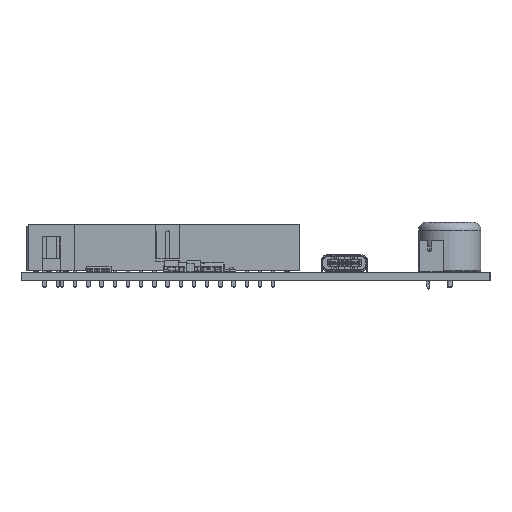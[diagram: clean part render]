
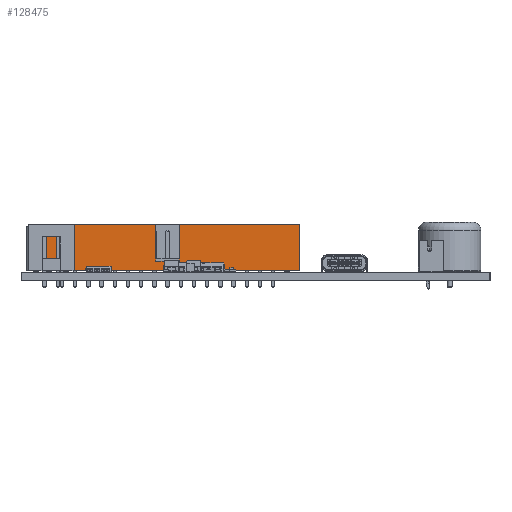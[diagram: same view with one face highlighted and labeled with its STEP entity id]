
A CAD part, left-side view. The second image highlights one B-rep face of the part: STEP entity #128475.
In plain terms, the highlighted planar face has unit normal (-1, 0, 0).
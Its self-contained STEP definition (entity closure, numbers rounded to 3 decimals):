
#128475 = ADVANCED_FACE('',(#128476),#128490,.T.);
#128476 = FACE_BOUND('',#128477,.T.);
#128477 = EDGE_LOOP('',(#128478,#128513,#128541,#128569,#128597,#128625,
    #128653,#128681));
#128478 = ORIENTED_EDGE('',*,*,#128479,.F.);
#128479 = EDGE_CURVE('',#128480,#128482,#128484,.T.);
#128480 = VERTEX_POINT('',#128481);
#128481 = CARTESIAN_POINT('',(-3.155,5.1,0.25));
#128482 = VERTEX_POINT('',#128483);
#128483 = CARTESIAN_POINT('',(-3.155,5.1,9.1));
#128484 = SURFACE_CURVE('',#128485,(#128489,#128501),.PCURVE_S1.);
#128485 = LINE('',#128486,#128487);
#128486 = CARTESIAN_POINT('',(-3.155,5.1,0.25));
#128487 = VECTOR('',#128488,1.);
#128488 = DIRECTION('',(0.,0.,1.));
#128489 = PCURVE('',#128490,#128495);
#128490 = PLANE('',#128491);
#128491 = AXIS2_PLACEMENT_3D('',#128492,#128493,#128494);
#128492 = CARTESIAN_POINT('',(-3.155,-20.32,4.675));
#128493 = DIRECTION('',(-1.,-0.,-0.));
#128494 = DIRECTION('',(0.,0.,-1.));
#128495 = DEFINITIONAL_REPRESENTATION('',(#128496),#128500);
#128496 = LINE('',#128497,#128498);
#128497 = CARTESIAN_POINT('',(4.425,-25.42));
#128498 = VECTOR('',#128499,1.);
#128499 = DIRECTION('',(-1.,0.));
#128500 = ( GEOMETRIC_REPRESENTATION_CONTEXT(2) 
PARAMETRIC_REPRESENTATION_CONTEXT() REPRESENTATION_CONTEXT('2D SPACE',''
  ) );
#128501 = PCURVE('',#128502,#128507);
#128502 = PLANE('',#128503);
#128503 = AXIS2_PLACEMENT_3D('',#128504,#128505,#128506);
#128504 = CARTESIAN_POINT('',(1.27,5.1,4.675));
#128505 = DIRECTION('',(0.,1.,0.));
#128506 = DIRECTION('',(0.,0.,1.));
#128507 = DEFINITIONAL_REPRESENTATION('',(#128508),#128512);
#128508 = LINE('',#128509,#128510);
#128509 = CARTESIAN_POINT('',(-4.425,-4.425));
#128510 = VECTOR('',#128511,1.);
#128511 = DIRECTION('',(1.,0.));
#128512 = ( GEOMETRIC_REPRESENTATION_CONTEXT(2) 
PARAMETRIC_REPRESENTATION_CONTEXT() REPRESENTATION_CONTEXT('2D SPACE',''
  ) );
#128513 = ORIENTED_EDGE('',*,*,#128514,.T.);
#128514 = EDGE_CURVE('',#128480,#128515,#128517,.T.);
#128515 = VERTEX_POINT('',#128516);
#128516 = CARTESIAN_POINT('',(-3.155,-45.74,0.25));
#128517 = SURFACE_CURVE('',#128518,(#128522,#128529),.PCURVE_S1.);
#128518 = LINE('',#128519,#128520);
#128519 = CARTESIAN_POINT('',(-3.155,5.1,0.25));
#128520 = VECTOR('',#128521,1.);
#128521 = DIRECTION('',(0.,-1.,0.));
#128522 = PCURVE('',#128490,#128523);
#128523 = DEFINITIONAL_REPRESENTATION('',(#128524),#128528);
#128524 = LINE('',#128525,#128526);
#128525 = CARTESIAN_POINT('',(4.425,-25.42));
#128526 = VECTOR('',#128527,1.);
#128527 = DIRECTION('',(0.,1.));
#128528 = ( GEOMETRIC_REPRESENTATION_CONTEXT(2) 
PARAMETRIC_REPRESENTATION_CONTEXT() REPRESENTATION_CONTEXT('2D SPACE',''
  ) );
#128529 = PCURVE('',#128530,#128535);
#128530 = PLANE('',#128531);
#128531 = AXIS2_PLACEMENT_3D('',#128532,#128533,#128534);
#128532 = CARTESIAN_POINT('',(1.294,-20.32,0.25));
#128533 = DIRECTION('',(-0.,-0.,-1.));
#128534 = DIRECTION('',(-1.,0.,0.));
#128535 = DEFINITIONAL_REPRESENTATION('',(#128536),#128540);
#128536 = LINE('',#128537,#128538);
#128537 = CARTESIAN_POINT('',(4.449,25.42));
#128538 = VECTOR('',#128539,1.);
#128539 = DIRECTION('',(0.,-1.));
#128540 = ( GEOMETRIC_REPRESENTATION_CONTEXT(2) 
PARAMETRIC_REPRESENTATION_CONTEXT() REPRESENTATION_CONTEXT('2D SPACE',''
  ) );
#128541 = ORIENTED_EDGE('',*,*,#128542,.T.);
#128542 = EDGE_CURVE('',#128515,#128543,#128545,.T.);
#128543 = VERTEX_POINT('',#128544);
#128544 = CARTESIAN_POINT('',(-3.155,-45.74,9.1));
#128545 = SURFACE_CURVE('',#128546,(#128550,#128557),.PCURVE_S1.);
#128546 = LINE('',#128547,#128548);
#128547 = CARTESIAN_POINT('',(-3.155,-45.74,2.6));
#128548 = VECTOR('',#128549,1.);
#128549 = DIRECTION('',(0.,0.,1.));
#128550 = PCURVE('',#128490,#128551);
#128551 = DEFINITIONAL_REPRESENTATION('',(#128552),#128556);
#128552 = LINE('',#128553,#128554);
#128553 = CARTESIAN_POINT('',(2.075,25.42));
#128554 = VECTOR('',#128555,1.);
#128555 = DIRECTION('',(-1.,0.));
#128556 = ( GEOMETRIC_REPRESENTATION_CONTEXT(2) 
PARAMETRIC_REPRESENTATION_CONTEXT() REPRESENTATION_CONTEXT('2D SPACE',''
  ) );
#128557 = PCURVE('',#128558,#128563);
#128558 = PLANE('',#128559);
#128559 = AXIS2_PLACEMENT_3D('',#128560,#128561,#128562);
#128560 = CARTESIAN_POINT('',(1.27,-45.74,4.675));
#128561 = DIRECTION('',(-0.,-1.,0.));
#128562 = DIRECTION('',(0.,0.,-1.));
#128563 = DEFINITIONAL_REPRESENTATION('',(#128564),#128568);
#128564 = LINE('',#128565,#128566);
#128565 = CARTESIAN_POINT('',(2.075,-4.425));
#128566 = VECTOR('',#128567,1.);
#128567 = DIRECTION('',(-1.,0.));
#128568 = ( GEOMETRIC_REPRESENTATION_CONTEXT(2) 
PARAMETRIC_REPRESENTATION_CONTEXT() REPRESENTATION_CONTEXT('2D SPACE',''
  ) );
#128569 = ORIENTED_EDGE('',*,*,#128570,.F.);
#128570 = EDGE_CURVE('',#128571,#128543,#128573,.T.);
#128571 = VERTEX_POINT('',#128572);
#128572 = CARTESIAN_POINT('',(-3.155,-22.57,9.1));
#128573 = SURFACE_CURVE('',#128574,(#128578,#128585),.PCURVE_S1.);
#128574 = LINE('',#128575,#128576);
#128575 = CARTESIAN_POINT('',(-3.155,5.1,9.1));
#128576 = VECTOR('',#128577,1.);
#128577 = DIRECTION('',(0.,-1.,0.));
#128578 = PCURVE('',#128490,#128579);
#128579 = DEFINITIONAL_REPRESENTATION('',(#128580),#128584);
#128580 = LINE('',#128581,#128582);
#128581 = CARTESIAN_POINT('',(-4.425,-25.42));
#128582 = VECTOR('',#128583,1.);
#128583 = DIRECTION('',(0.,1.));
#128584 = ( GEOMETRIC_REPRESENTATION_CONTEXT(2) 
PARAMETRIC_REPRESENTATION_CONTEXT() REPRESENTATION_CONTEXT('2D SPACE',''
  ) );
#128585 = PCURVE('',#128586,#128591);
#128586 = PLANE('',#128587);
#128587 = AXIS2_PLACEMENT_3D('',#128588,#128589,#128590);
#128588 = CARTESIAN_POINT('',(1.27,-20.32,9.1));
#128589 = DIRECTION('',(0.,0.,1.));
#128590 = DIRECTION('',(1.,0.,-0.));
#128591 = DEFINITIONAL_REPRESENTATION('',(#128592),#128596);
#128592 = LINE('',#128593,#128594);
#128593 = CARTESIAN_POINT('',(-4.425,25.42));
#128594 = VECTOR('',#128595,1.);
#128595 = DIRECTION('',(0.,-1.));
#128596 = ( GEOMETRIC_REPRESENTATION_CONTEXT(2) 
PARAMETRIC_REPRESENTATION_CONTEXT() REPRESENTATION_CONTEXT('2D SPACE',''
  ) );
#128597 = ORIENTED_EDGE('',*,*,#128598,.T.);
#128598 = EDGE_CURVE('',#128571,#128599,#128601,.T.);
#128599 = VERTEX_POINT('',#128600);
#128600 = CARTESIAN_POINT('',(-3.155,-22.57,2.1));
#128601 = SURFACE_CURVE('',#128602,(#128606,#128613),.PCURVE_S1.);
#128602 = LINE('',#128603,#128604);
#128603 = CARTESIAN_POINT('',(-3.155,-22.57,3.388));
#128604 = VECTOR('',#128605,1.);
#128605 = DIRECTION('',(0.,0.,-1.));
#128606 = PCURVE('',#128490,#128607);
#128607 = DEFINITIONAL_REPRESENTATION('',(#128608),#128612);
#128608 = LINE('',#128609,#128610);
#128609 = CARTESIAN_POINT('',(1.288,2.25));
#128610 = VECTOR('',#128611,1.);
#128611 = DIRECTION('',(1.,0.));
#128612 = ( GEOMETRIC_REPRESENTATION_CONTEXT(2) 
PARAMETRIC_REPRESENTATION_CONTEXT() REPRESENTATION_CONTEXT('2D SPACE',''
  ) );
#128613 = PCURVE('',#128614,#128619);
#128614 = PLANE('',#128615);
#128615 = AXIS2_PLACEMENT_3D('',#128616,#128617,#128618);
#128616 = CARTESIAN_POINT('',(-5.155,-22.57,2.1));
#128617 = DIRECTION('',(0.,1.,0.));
#128618 = DIRECTION('',(1.,0.,0.));
#128619 = DEFINITIONAL_REPRESENTATION('',(#128620),#128624);
#128620 = LINE('',#128621,#128622);
#128621 = CARTESIAN_POINT('',(2.,-1.288));
#128622 = VECTOR('',#128623,1.);
#128623 = DIRECTION('',(0.,1.));
#128624 = ( GEOMETRIC_REPRESENTATION_CONTEXT(2) 
PARAMETRIC_REPRESENTATION_CONTEXT() REPRESENTATION_CONTEXT('2D SPACE',''
  ) );
#128625 = ORIENTED_EDGE('',*,*,#128626,.T.);
#128626 = EDGE_CURVE('',#128599,#128627,#128629,.T.);
#128627 = VERTEX_POINT('',#128628);
#128628 = CARTESIAN_POINT('',(-3.155,-18.07,2.1));
#128629 = SURFACE_CURVE('',#128630,(#128634,#128641),.PCURVE_S1.);
#128630 = LINE('',#128631,#128632);
#128631 = CARTESIAN_POINT('',(-3.155,-20.32,2.1));
#128632 = VECTOR('',#128633,1.);
#128633 = DIRECTION('',(0.,1.,0.));
#128634 = PCURVE('',#128490,#128635);
#128635 = DEFINITIONAL_REPRESENTATION('',(#128636),#128640);
#128636 = LINE('',#128637,#128638);
#128637 = CARTESIAN_POINT('',(2.575,0.));
#128638 = VECTOR('',#128639,1.);
#128639 = DIRECTION('',(0.,-1.));
#128640 = ( GEOMETRIC_REPRESENTATION_CONTEXT(2) 
PARAMETRIC_REPRESENTATION_CONTEXT() REPRESENTATION_CONTEXT('2D SPACE',''
  ) );
#128641 = PCURVE('',#128642,#128647);
#128642 = PLANE('',#128643);
#128643 = AXIS2_PLACEMENT_3D('',#128644,#128645,#128646);
#128644 = CARTESIAN_POINT('',(-3.155,-20.32,2.1));
#128645 = DIRECTION('',(0.,0.,1.));
#128646 = DIRECTION('',(1.,0.,-0.));
#128647 = DEFINITIONAL_REPRESENTATION('',(#128648),#128652);
#128648 = LINE('',#128649,#128650);
#128649 = CARTESIAN_POINT('',(0.,0.));
#128650 = VECTOR('',#128651,1.);
#128651 = DIRECTION('',(0.,1.));
#128652 = ( GEOMETRIC_REPRESENTATION_CONTEXT(2) 
PARAMETRIC_REPRESENTATION_CONTEXT() REPRESENTATION_CONTEXT('2D SPACE',''
  ) );
#128653 = ORIENTED_EDGE('',*,*,#128654,.T.);
#128654 = EDGE_CURVE('',#128627,#128655,#128657,.T.);
#128655 = VERTEX_POINT('',#128656);
#128656 = CARTESIAN_POINT('',(-3.155,-18.07,9.1));
#128657 = SURFACE_CURVE('',#128658,(#128662,#128669),.PCURVE_S1.);
#128658 = LINE('',#128659,#128660);
#128659 = CARTESIAN_POINT('',(-3.155,-18.07,3.388));
#128660 = VECTOR('',#128661,1.);
#128661 = DIRECTION('',(0.,0.,1.));
#128662 = PCURVE('',#128490,#128663);
#128663 = DEFINITIONAL_REPRESENTATION('',(#128664),#128668);
#128664 = LINE('',#128665,#128666);
#128665 = CARTESIAN_POINT('',(1.288,-2.25));
#128666 = VECTOR('',#128667,1.);
#128667 = DIRECTION('',(-1.,0.));
#128668 = ( GEOMETRIC_REPRESENTATION_CONTEXT(2) 
PARAMETRIC_REPRESENTATION_CONTEXT() REPRESENTATION_CONTEXT('2D SPACE',''
  ) );
#128669 = PCURVE('',#128670,#128675);
#128670 = PLANE('',#128671);
#128671 = AXIS2_PLACEMENT_3D('',#128672,#128673,#128674);
#128672 = CARTESIAN_POINT('',(-1.155,-18.07,2.1));
#128673 = DIRECTION('',(0.,-1.,0.));
#128674 = DIRECTION('',(-1.,0.,0.));
#128675 = DEFINITIONAL_REPRESENTATION('',(#128676),#128680);
#128676 = LINE('',#128677,#128678);
#128677 = CARTESIAN_POINT('',(2.,-1.288));
#128678 = VECTOR('',#128679,1.);
#128679 = DIRECTION('',(0.,-1.));
#128680 = ( GEOMETRIC_REPRESENTATION_CONTEXT(2) 
PARAMETRIC_REPRESENTATION_CONTEXT() REPRESENTATION_CONTEXT('2D SPACE',''
  ) );
#128681 = ORIENTED_EDGE('',*,*,#128682,.F.);
#128682 = EDGE_CURVE('',#128482,#128655,#128683,.T.);
#128683 = SURFACE_CURVE('',#128684,(#128688,#128695),.PCURVE_S1.);
#128684 = LINE('',#128685,#128686);
#128685 = CARTESIAN_POINT('',(-3.155,5.1,9.1));
#128686 = VECTOR('',#128687,1.);
#128687 = DIRECTION('',(0.,-1.,0.));
#128688 = PCURVE('',#128490,#128689);
#128689 = DEFINITIONAL_REPRESENTATION('',(#128690),#128694);
#128690 = LINE('',#128691,#128692);
#128691 = CARTESIAN_POINT('',(-4.425,-25.42));
#128692 = VECTOR('',#128693,1.);
#128693 = DIRECTION('',(0.,1.));
#128694 = ( GEOMETRIC_REPRESENTATION_CONTEXT(2) 
PARAMETRIC_REPRESENTATION_CONTEXT() REPRESENTATION_CONTEXT('2D SPACE',''
  ) );
#128695 = PCURVE('',#128586,#128696);
#128696 = DEFINITIONAL_REPRESENTATION('',(#128697),#128701);
#128697 = LINE('',#128698,#128699);
#128698 = CARTESIAN_POINT('',(-4.425,25.42));
#128699 = VECTOR('',#128700,1.);
#128700 = DIRECTION('',(0.,-1.));
#128701 = ( GEOMETRIC_REPRESENTATION_CONTEXT(2) 
PARAMETRIC_REPRESENTATION_CONTEXT() REPRESENTATION_CONTEXT('2D SPACE',''
  ) );
